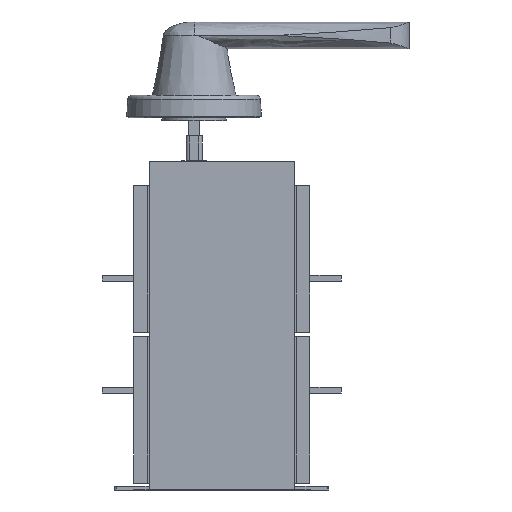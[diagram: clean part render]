
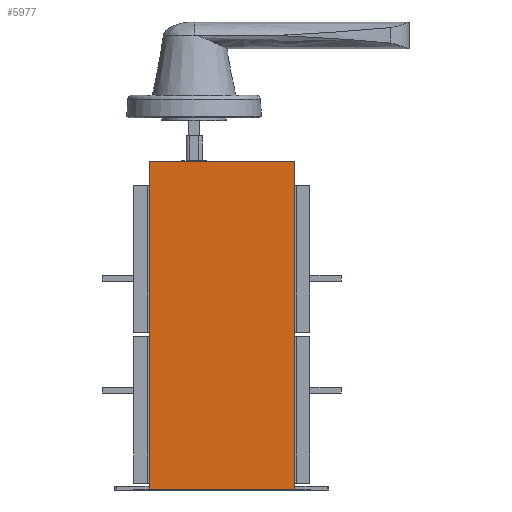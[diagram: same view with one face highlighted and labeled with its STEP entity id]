
A CAD part, left-side view. The second image highlights one B-rep face of the part: STEP entity #5977.
In plain terms, the highlighted planar face has unit normal (-1, 0, 0).
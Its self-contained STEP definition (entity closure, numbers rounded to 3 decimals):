
#40 = CARTESIAN_POINT ( 'NONE',  ( -124.7, -49.7, 0. ) ) ;
#1346 = EDGE_LOOP ( 'NONE', ( #3604, #21337, #16117, #12328 ) ) ;
#1399 = CARTESIAN_POINT ( 'NONE',  ( -124.7, -49.7, 224.2 ) ) ;
#1520 = EDGE_CURVE ( 'NONE', #3747, #17867, #14506, .T. ) ;
#1913 = DIRECTION ( 'NONE',  ( 1., 0., 0. ) ) ;
#2065 = LINE ( 'NONE', #9122, #17225 ) ;
#2678 = DIRECTION ( 'NONE',  ( 0., 0., -1. ) ) ;
#2841 = DIRECTION ( 'NONE',  ( 0., 1., 0. ) ) ;
#3149 = EDGE_CURVE ( 'NONE', #27460, #3747, #2065, .T. ) ;
#3604 = ORIENTED_EDGE ( 'NONE', *, *, #12229, .T. ) ;
#3747 = VERTEX_POINT ( 'NONE', #13038 ) ;
#5977 = ADVANCED_FACE ( 'NONE', ( #14468 ), #27712, .F. ) ;
#6501 = AXIS2_PLACEMENT_3D ( 'NONE', #40, #1913, #15095 ) ;
#8416 = CARTESIAN_POINT ( 'NONE',  ( -124.7, 49.7, 224.2 ) ) ;
#8549 = VECTOR ( 'NONE', #20967, 1000. ) ;
#9122 = CARTESIAN_POINT ( 'NONE',  ( -124.7, -49.7, 0. ) ) ;
#12229 = EDGE_CURVE ( 'NONE', #27460, #15627, #19275, .T. ) ;
#12328 = ORIENTED_EDGE ( 'NONE', *, *, #3149, .F. ) ;
#13038 = CARTESIAN_POINT ( 'NONE',  ( -124.7, -49.7, 0. ) ) ;
#13610 = DIRECTION ( 'NONE',  ( 0., 0., -1. ) ) ;
#13665 = CARTESIAN_POINT ( 'NONE',  ( -124.7, -49.7, 224.2 ) ) ;
#14468 = FACE_OUTER_BOUND ( 'NONE', #1346, .T. ) ;
#14506 = LINE ( 'NONE', #19110, #23550 ) ;
#15095 = DIRECTION ( 'NONE',  ( 0., 0., -1. ) ) ;
#15627 = VERTEX_POINT ( 'NONE', #8416 ) ;
#16117 = ORIENTED_EDGE ( 'NONE', *, *, #1520, .F. ) ;
#16563 = VECTOR ( 'NONE', #2678, 1000. ) ;
#17225 = VECTOR ( 'NONE', #13610, 1000. ) ;
#17640 = CARTESIAN_POINT ( 'NONE',  ( -124.7, 49.7, 0. ) ) ;
#17867 = VERTEX_POINT ( 'NONE', #26625 ) ;
#18338 = EDGE_CURVE ( 'NONE', #15627, #17867, #22283, .T. ) ;
#19110 = CARTESIAN_POINT ( 'NONE',  ( -124.7, -49.7, 0. ) ) ;
#19275 = LINE ( 'NONE', #1399, #8549 ) ;
#20967 = DIRECTION ( 'NONE',  ( 0., 1., 0. ) ) ;
#21337 = ORIENTED_EDGE ( 'NONE', *, *, #18338, .T. ) ;
#22283 = LINE ( 'NONE', #17640, #16563 ) ;
#23550 = VECTOR ( 'NONE', #2841, 1000. ) ;
#26625 = CARTESIAN_POINT ( 'NONE',  ( -124.7, 49.7, 0. ) ) ;
#27460 = VERTEX_POINT ( 'NONE', #13665 ) ;
#27712 = PLANE ( 'NONE',  #6501 ) ;
